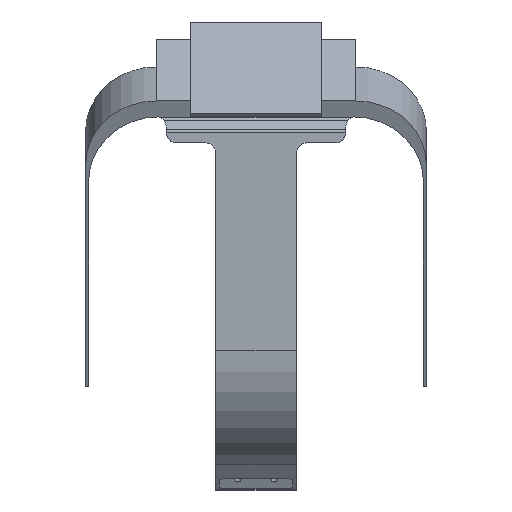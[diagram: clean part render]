
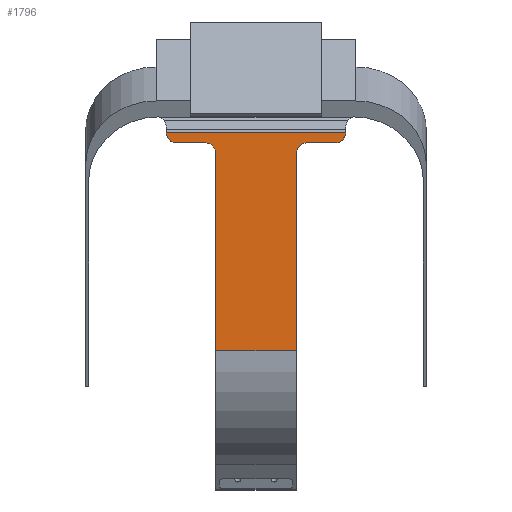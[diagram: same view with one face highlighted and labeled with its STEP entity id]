
A CAD part, top view. The second image highlights one B-rep face of the part: STEP entity #1796.
In plain terms, the highlighted planar face has unit normal (0, 0, 1).
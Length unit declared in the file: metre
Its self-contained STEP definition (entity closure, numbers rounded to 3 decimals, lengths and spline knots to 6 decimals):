
#24=ELLIPSE('',#1960,0.005517,0.005);
#25=ELLIPSE('',#1961,0.005517,0.005);
#26=ELLIPSE('',#1963,0.005517,0.005);
#27=ELLIPSE('',#1964,0.005517,0.005);
#489=ORIENTED_EDGE('',*,*,#854,.F.);
#490=ORIENTED_EDGE('',*,*,#901,.T.);
#491=ORIENTED_EDGE('',*,*,#848,.T.);
#492=ORIENTED_EDGE('',*,*,#900,.T.);
#493=ORIENTED_EDGE('',*,*,#888,.T.);
#494=ORIENTED_EDGE('',*,*,#891,.T.);
#495=ORIENTED_EDGE('',*,*,#902,.T.);
#496=ORIENTED_EDGE('',*,*,#894,.T.);
#497=ORIENTED_EDGE('',*,*,#898,.T.);
#498=ORIENTED_EDGE('',*,*,#899,.T.);
#848=EDGE_CURVE('',#1091,#1090,#1231,.T.);
#854=EDGE_CURVE('',#1096,#1097,#1234,.T.);
#888=EDGE_CURVE('',#1111,#1110,#1244,.T.);
#891=EDGE_CURVE('',#1110,#1112,#24,.T.);
#894=EDGE_CURVE('',#1113,#1114,#25,.T.);
#898=EDGE_CURVE('',#1114,#1115,#1248,.T.);
#899=EDGE_CURVE('',#1115,#1097,#26,.F.);
#900=EDGE_CURVE('',#1090,#1111,#27,.F.);
#901=EDGE_CURVE('',#1096,#1091,#1249,.T.);
#902=EDGE_CURVE('',#1112,#1113,#1250,.T.);
#1090=VERTEX_POINT('',#2884);
#1091=VERTEX_POINT('',#2886);
#1096=VERTEX_POINT('',#2897);
#1097=VERTEX_POINT('',#2899);
#1110=VERTEX_POINT('',#3040);
#1111=VERTEX_POINT('',#3042);
#1112=VERTEX_POINT('',#3058);
#1113=VERTEX_POINT('',#3095);
#1114=VERTEX_POINT('',#3096);
#1115=VERTEX_POINT('',#3104);
#1231=LINE('',#2885,#1393);
#1234=LINE('',#2898,#1396);
#1244=LINE('',#3041,#1406);
#1248=LINE('',#3105,#1410);
#1249=LINE('',#3129,#1411);
#1250=LINE('',#3130,#1412);
#1393=VECTOR('',#2264,1.);
#1396=VECTOR('',#2275,1.);
#1406=VECTOR('',#2341,1.);
#1410=VECTOR('',#2351,1.);
#1411=VECTOR('',#2358,1.);
#1412=VECTOR('',#2359,1.);
#1525=EDGE_LOOP('',(#489,#490,#491,#492,#493,#494,#495,#496,#497,#498));
#1641=FACE_BOUND('',#1525,.T.);
#1719=PLANE('',#1965);
#1796=ADVANCED_FACE('',(#1641),#1719,.T.);
#1960=AXIS2_PLACEMENT_3D('',#3059,#2343,#2344);
#1961=AXIS2_PLACEMENT_3D('',#3094,#2345,#2346);
#1963=AXIS2_PLACEMENT_3D('',#3116,#2352,#2353);
#1964=AXIS2_PLACEMENT_3D('',#3127,#2354,#2355);
#1965=AXIS2_PLACEMENT_3D('',#3128,#2356,#2357);
#2264=DIRECTION('',(0.,1.,0.));
#2275=DIRECTION('',(0.,1.,0.));
#2341=DIRECTION('',(1.,0.,0.));
#2343=DIRECTION('',(0.,0.,1.));
#2344=DIRECTION('',(0.,1.,0.));
#2345=DIRECTION('',(0.,0.,1.));
#2346=DIRECTION('',(0.,-1.,0.));
#2351=DIRECTION('',(1.,0.,0.));
#2352=DIRECTION('',(0.,0.,1.));
#2353=DIRECTION('',(0.,-1.,0.));
#2354=DIRECTION('',(0.,0.,1.));
#2355=DIRECTION('',(0.,1.,0.));
#2356=DIRECTION('',(0.,0.,1.));
#2357=DIRECTION('',(1.,0.,0.));
#2358=DIRECTION('',(1.,0.,0.));
#2359=DIRECTION('',(-1.,0.,0.));
#2884=CARTESIAN_POINT('',(0.02,-0.074059,0.097016));
#2885=CARTESIAN_POINT('',(0.02,-0.213542,0.097016));
#2886=CARTESIAN_POINT('',(0.02,-0.17153,0.097016));
#2897=CARTESIAN_POINT('',(-0.02,-0.17153,0.097016));
#2898=CARTESIAN_POINT('',(-0.02,-0.213542,0.097016));
#2899=CARTESIAN_POINT('',(-0.02,-0.074059,0.097016));
#3040=CARTESIAN_POINT('',(0.0395,-0.068542,0.097016));
#3041=CARTESIAN_POINT('',(-0.0445,-0.068542,0.097016));
#3042=CARTESIAN_POINT('',(0.025,-0.068542,0.097016));
#3058=CARTESIAN_POINT('',(0.044474,-0.063591,0.097016));
#3059=CARTESIAN_POINT('',(0.0395,-0.063026,0.097016));
#3094=CARTESIAN_POINT('',(-0.0395,-0.063026,0.097016));
#3095=CARTESIAN_POINT('',(-0.044474,-0.063591,0.097016));
#3096=CARTESIAN_POINT('',(-0.0395,-0.068542,0.097016));
#3104=CARTESIAN_POINT('',(-0.025,-0.068542,0.097016));
#3105=CARTESIAN_POINT('',(-0.0445,-0.068542,0.097016));
#3116=CARTESIAN_POINT('',(-0.025,-0.074059,0.097016));
#3127=CARTESIAN_POINT('',(0.025,-0.074059,0.097016));
#3128=CARTESIAN_POINT('',(0.,-0.213542,0.097016));
#3129=CARTESIAN_POINT('',(0.,-0.17153,0.097016));
#3130=CARTESIAN_POINT('',(-0.044659,-0.063591,0.097016));
